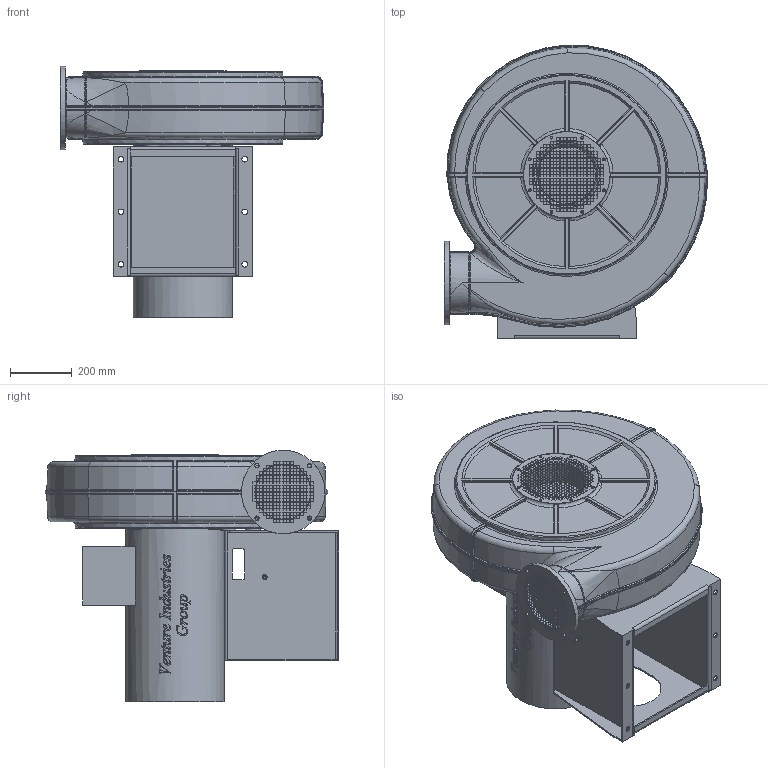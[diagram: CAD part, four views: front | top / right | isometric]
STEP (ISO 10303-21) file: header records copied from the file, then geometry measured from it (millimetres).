
FILE_DESCRIPTION(/* description */ (''),/* implementation_level */ '2;1');
FILE_NAME(/* name */ 'E:\Mariusz\Modele uproszczone\EBA\EBA 600 160\EBA_2_600T LG270 160 45519800\EBA_2_600T LG270 160 45519800.stp',/* time_stamp */ '2020-01-30T16:12:59+01:00',/* author */ ('M.Janczarek'),/* organization */ (''),/* preprocessor_version */ 'ST-DEVELOPER v16.13',/* originating_system */ 'Autodesk Inventor 2018',/* authorisation */ '');
FILE_SCHEMA (('AUTOMOTIVE_DESIGN { 1 0 10303 214 3 1 1 }'));
Products named in the file (1): EBA_2_600T LG270 160 45519800
Bounding box: 851.18 x 949.99 x 814 mm (x, y, z)
Volume: 179858547.2 mm3; surface area: 4252941.2 mm2
Topology: 1 solids, 4 shells, 4239 faces, 12093 edges, 7848 vertices
Faces by surface type: plane 3099, bspline 733, cylinder 230, cone 95, torus 54, sphere 28
Full cylindrical faces by diameter (mm): 6.647 x8, 7.323 x2, 8 x6, 8.1 x2, 8.4 x3, 9.2 x8, 11.4 x2, 13 x4, 14 x4, 16 x3, 18 x6, 270 x2, 280 x1, 320 x1, 648 x2
Entity records: 158746 total; most frequent: CARTESIAN_POINT 47315, ORIENTED_EDGE 23948, DIRECTION 18662, EDGE_CURVE 11974, LINE 9364, VECTOR 9364, VERTEX_POINT 7824, EDGE_LOOP 5522
